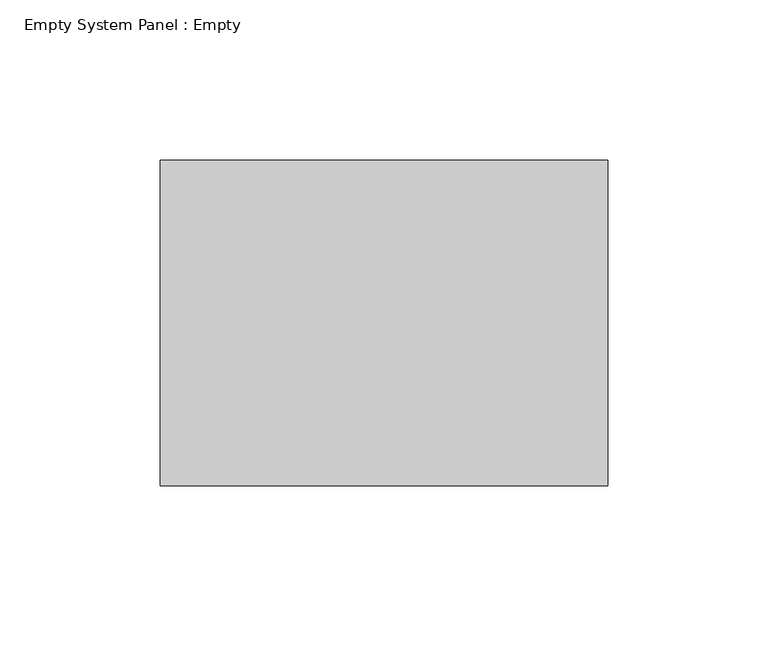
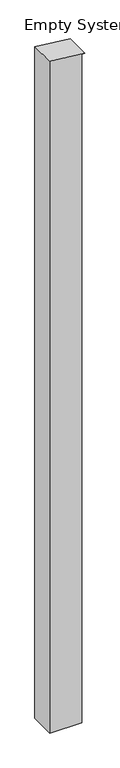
"""IFC4 building model written with IfcOpenShell, lengths in millimetres: plate geometry, Empty System Panel : Empty."""

from ifc_helpers import new_model, si_unit, frame, origin, place, context, project, spatial, polyline, outline, extrude, source, transform, mapped, element, save


def empty_system_panel_empty_ca34f564(model_context):
    return source(origin(), model_context, "Body", "SweptSolid", [
        extrude(outline(polyline([(0.0, -69.85), (0.0, 57.15), (2809.5393371, 57.15), (2809.5393371, 69.85), (2825.1645271, -69.85), (0.0, -69.85)])), frame((0.0, -50.8, 0.0), z_axis=(0.0, 1.0, 0.0), x_axis=(0.0, 0.0, 1.0)), (0.0, 0.0, 1.0), 101.6),
    ])


if __name__ == "__main__":
    model = new_model("IFC4")
    model_context = context("Model", 3, world=origin())
    ifc_project = project(units=[si_unit("LENGTHUNIT", "METRE", prefix="MILLI")], contexts=[model_context])
    site = spatial("IfcSite", under=ifc_project)
    building = spatial("IfcBuilding", under=site)
    placement = place(None, origin())
    empty_system_panel_empty_shape = empty_system_panel_empty_ca34f564(model_context)
    element("IfcPlate", 1, ObjectType="Empty System Panel : Empty", at=placement, inside=building, context=model_context, shape_type="MappedRepresentation", body=[
        mapped(empty_system_panel_empty_shape, transform((0.0, 0.0, 0.0), x_axis=(1.0, 0.0, 0.0), y_axis=(0.0, 1.0, 0.0), z_axis=(0.0, 0.0, 1.0))),
    ])
    save(model, "model.ifc")
